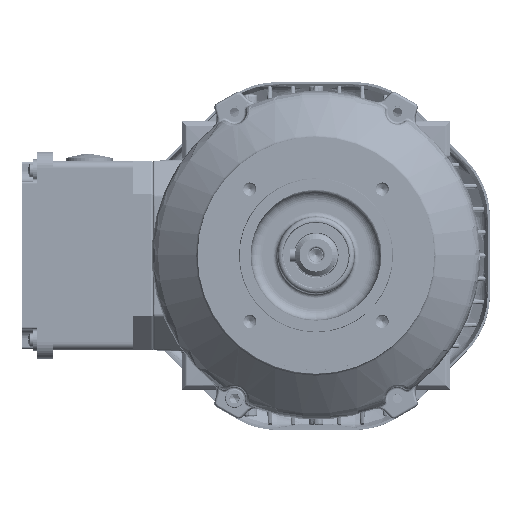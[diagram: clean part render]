
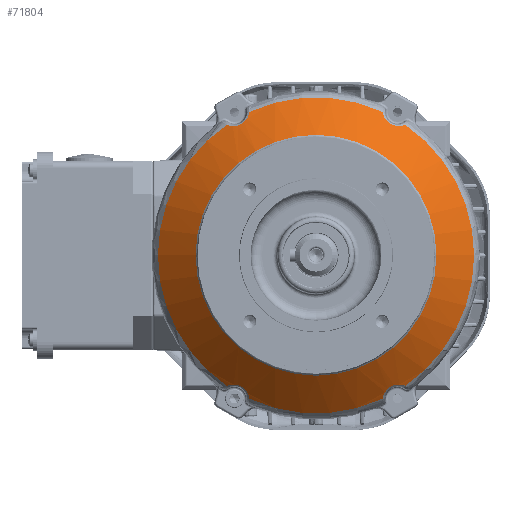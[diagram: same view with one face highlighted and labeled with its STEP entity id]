
A CAD part, top view. The second image highlights one B-rep face of the part: STEP entity #71804.
In plain terms, the highlighted conical face has half-angle 47.493 degrees and reference radius 54.373 mm.
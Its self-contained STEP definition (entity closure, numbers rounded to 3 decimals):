
#42832=CONICAL_SURFACE('',#225690,54.373,47.493);
#50313=B_SPLINE_CURVE_WITH_KNOTS('',3,(#418725,#418726,#418727,#418728,
#418729,#418730,#418731,#418732,#418733,#418734),.UNSPECIFIED.,.F.,.F.,
(4,2,2,2,4),(0.,0.25,0.5,0.75,1.),
 .UNSPECIFIED.);
#50314=B_SPLINE_CURVE_WITH_KNOTS('',3,(#418738,#418739,#418740,#418741,
#418742,#418743,#418744,#418745,#418746,#418747),.UNSPECIFIED.,.F.,.F.,
(4,2,2,2,4),(0.,0.25,0.5,0.75,1.),.UNSPECIFIED.);
#50315=B_SPLINE_CURVE_WITH_KNOTS('',3,(#418751,#418752,#418753,#418754,
#418755,#418756,#418757,#418758,#418759,#418760),.UNSPECIFIED.,.F.,.F.,
(4,2,2,2,4),(0.,0.25,0.5,0.75,1.),.UNSPECIFIED.);
#50316=B_SPLINE_CURVE_WITH_KNOTS('',3,(#418764,#418765,#418766,#418767,
#418768,#418769,#418770,#418771,#418772,#418773),.UNSPECIFIED.,.F.,.F.,
(4,2,2,2,4),(0.,0.25,0.5,0.75,1.),.UNSPECIFIED.);
#71804=ADVANCED_FACE('',(#77866,#77867),#42832,.T.);
#77866=FACE_BOUND('',#87789,.T.);
#77867=FACE_BOUND('',#87790,.T.);
#87789=EDGE_LOOP('',(#129628));
#87790=EDGE_LOOP('',(#129629,#129630,#129631,#129632,#129633,#129634,#129635,
#129636));
#129628=ORIENTED_EDGE('',*,*,#174612,.T.);
#129629=ORIENTED_EDGE('',*,*,#174830,.T.);
#129630=ORIENTED_EDGE('',*,*,#174831,.T.);
#129631=ORIENTED_EDGE('',*,*,#174832,.T.);
#129632=ORIENTED_EDGE('',*,*,#174833,.T.);
#129633=ORIENTED_EDGE('',*,*,#174834,.T.);
#129634=ORIENTED_EDGE('',*,*,#174835,.T.);
#129635=ORIENTED_EDGE('',*,*,#174836,.T.);
#129636=ORIENTED_EDGE('',*,*,#174837,.T.);
#151490=VERTEX_POINT('',#417351);
#151696=VERTEX_POINT('',#418723);
#151697=VERTEX_POINT('',#418724);
#151698=VERTEX_POINT('',#418735);
#151699=VERTEX_POINT('',#418737);
#151700=VERTEX_POINT('',#418748);
#151701=VERTEX_POINT('',#418750);
#151702=VERTEX_POINT('',#418761);
#151703=VERTEX_POINT('',#418763);
#174612=EDGE_CURVE('',#151490,#151490,#187869,.T.);
#174830=EDGE_CURVE('',#151696,#151697,#187937,.T.);
#174831=EDGE_CURVE('',#151697,#151698,#50313,.T.);
#174832=EDGE_CURVE('',#151698,#151699,#187938,.T.);
#174833=EDGE_CURVE('',#151699,#151700,#50314,.T.);
#174834=EDGE_CURVE('',#151700,#151701,#187939,.T.);
#174835=EDGE_CURVE('',#151701,#151702,#50315,.T.);
#174836=EDGE_CURVE('',#151702,#151703,#187940,.T.);
#174837=EDGE_CURVE('',#151703,#151696,#50316,.T.);
#187869=CIRCLE('',#225586,54.698);
#187937=CIRCLE('',#225686,71.777);
#187938=CIRCLE('',#225687,71.777);
#187939=CIRCLE('',#225688,71.777);
#187940=CIRCLE('',#225689,71.777);
#225586=AXIS2_PLACEMENT_3D('',#417350,#263660,#263661);
#225686=AXIS2_PLACEMENT_3D('',#418722,#263860,#263861);
#225687=AXIS2_PLACEMENT_3D('',#418736,#263862,#263863);
#225688=AXIS2_PLACEMENT_3D('',#418749,#263864,#263865);
#225689=AXIS2_PLACEMENT_3D('',#418762,#263866,#263867);
#225690=AXIS2_PLACEMENT_3D('',#418774,#263868,#263869);
#263660=DIRECTION('',(0.,0.,-1.));
#263661=DIRECTION('',(-1.,0.,0.));
#263860=DIRECTION('',(0.,0.,1.));
#263861=DIRECTION('',(1.,0.,0.));
#263862=DIRECTION('',(0.,0.,1.));
#263863=DIRECTION('',(1.,0.,0.));
#263864=DIRECTION('',(0.,0.,1.));
#263865=DIRECTION('',(1.,0.,0.));
#263866=DIRECTION('',(0.,0.,1.));
#263867=DIRECTION('',(1.,0.,0.));
#263868=DIRECTION('',(0.,0.,-1.));
#263869=DIRECTION('',(-1.,0.,0.));
#417350=CARTESIAN_POINT('',(0.,0.,60.42));
#417351=CARTESIAN_POINT('',(-54.698,0.,60.42));
#418722=CARTESIAN_POINT('',(0.,0.,44.766));
#418723=CARTESIAN_POINT('',(40.533,-59.237,44.766));
#418724=CARTESIAN_POINT('',(40.533,59.237,44.766));
#418725=CARTESIAN_POINT('',(40.533,59.237,44.766));
#418726=CARTESIAN_POINT('',(39.611,58.846,45.539));
#418727=CARTESIAN_POINT('',(38.567,58.624,46.244));
#418728=CARTESIAN_POINT('',(36.294,58.696,47.309));
#418729=CARTESIAN_POINT('',(35.048,59.019,47.651));
#418730=CARTESIAN_POINT('',(32.862,60.261,47.653));
#418731=CARTESIAN_POINT('',(31.945,61.168,47.311));
#418732=CARTESIAN_POINT('',(30.721,63.085,46.248));
#418733=CARTESIAN_POINT('',(30.375,64.102,45.54));
#418734=CARTESIAN_POINT('',(30.241,65.096,44.766));
#418735=CARTESIAN_POINT('',(30.241,65.096,44.766));
#418736=CARTESIAN_POINT('',(0.,0.,44.766));
#418737=CARTESIAN_POINT('',(-30.241,65.096,44.766));
#418738=CARTESIAN_POINT('',(-30.241,65.096,44.766));
#418739=CARTESIAN_POINT('',(-30.375,64.103,45.539));
#418740=CARTESIAN_POINT('',(-30.717,63.092,46.244));
#418741=CARTESIAN_POINT('',(-31.94,61.174,47.309));
#418742=CARTESIAN_POINT('',(-32.854,60.268,47.651));
#418743=CARTESIAN_POINT('',(-35.038,59.023,47.653));
#418744=CARTESIAN_POINT('',(-36.286,58.697,47.311));
#418745=CARTESIAN_POINT('',(-38.559,58.623,46.248));
#418746=CARTESIAN_POINT('',(-39.61,58.845,45.54));
#418747=CARTESIAN_POINT('',(-40.533,59.237,44.766));
#418748=CARTESIAN_POINT('',(-40.533,59.237,44.766));
#418749=CARTESIAN_POINT('',(0.,0.,44.766));
#418750=CARTESIAN_POINT('',(-40.533,-59.237,44.766));
#418751=CARTESIAN_POINT('',(-40.533,-59.237,44.766));
#418752=CARTESIAN_POINT('',(-39.611,-58.846,45.539));
#418753=CARTESIAN_POINT('',(-38.567,-58.624,46.244));
#418754=CARTESIAN_POINT('',(-36.294,-58.696,47.309));
#418755=CARTESIAN_POINT('',(-35.048,-59.019,47.651));
#418756=CARTESIAN_POINT('',(-32.862,-60.261,47.653));
#418757=CARTESIAN_POINT('',(-31.945,-61.168,47.311));
#418758=CARTESIAN_POINT('',(-30.721,-63.085,46.248));
#418759=CARTESIAN_POINT('',(-30.375,-64.102,45.54));
#418760=CARTESIAN_POINT('',(-30.241,-65.096,44.766));
#418761=CARTESIAN_POINT('',(-30.241,-65.096,44.766));
#418762=CARTESIAN_POINT('',(0.,0.,44.766));
#418763=CARTESIAN_POINT('',(30.241,-65.096,44.766));
#418764=CARTESIAN_POINT('',(30.241,-65.096,44.766));
#418765=CARTESIAN_POINT('',(30.375,-64.103,45.539));
#418766=CARTESIAN_POINT('',(30.717,-63.092,46.244));
#418767=CARTESIAN_POINT('',(31.94,-61.174,47.309));
#418768=CARTESIAN_POINT('',(32.854,-60.268,47.651));
#418769=CARTESIAN_POINT('',(35.038,-59.023,47.653));
#418770=CARTESIAN_POINT('',(36.286,-58.697,47.311));
#418771=CARTESIAN_POINT('',(38.559,-58.623,46.248));
#418772=CARTESIAN_POINT('',(39.61,-58.845,45.54));
#418773=CARTESIAN_POINT('',(40.533,-59.237,44.766));
#418774=CARTESIAN_POINT('',(0.,0.,60.718));
